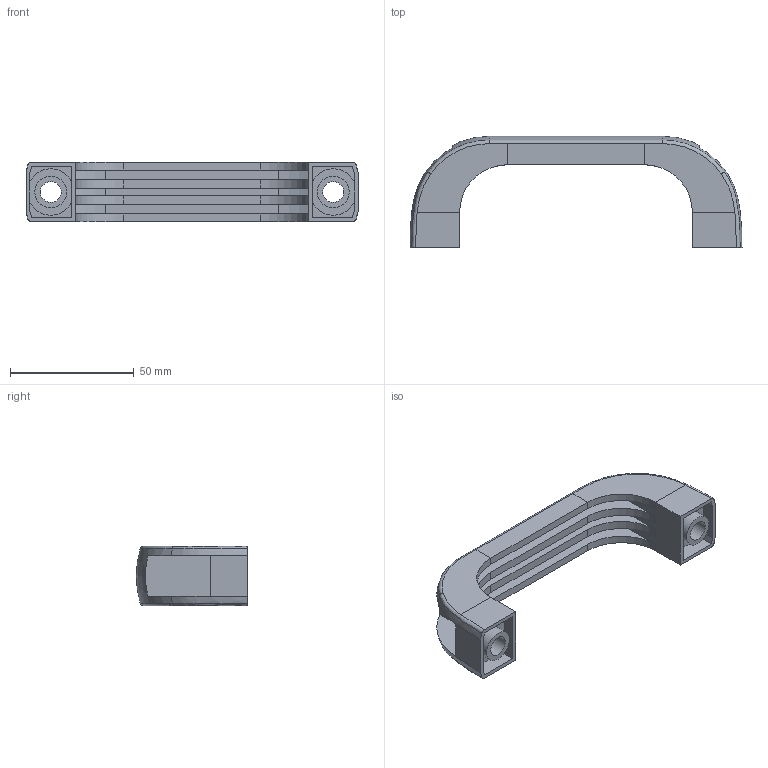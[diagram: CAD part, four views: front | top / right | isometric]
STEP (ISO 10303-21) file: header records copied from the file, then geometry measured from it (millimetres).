
FILE_DESCRIPTION (( 'STEP AP203' ), '1' );
FILE_NAME ('AP-114 塑料拉手.stp', '2022-05-03T08:13:03', ( '' ), ( '' ), 'SwSTEP 2.0', 'SolidWorks 2020', '' );
FILE_SCHEMA (( 'CONFIG_CONTROL_DESIGN' ));
Length unit declared in the file: millimetre
Products named in the file (1): AP-114 塑料拉手
Bounding box: 134 x 45 x 24 mm (x, y, z)
Volume: 32690.8 mm3; surface area: 24693.2 mm2
Topology: 1 solids, 1 shells, 104 faces, 272 edges, 174 vertices
Faces by surface type: plane 59, cylinder 27, bspline 12, torus 6
Full cylindrical faces by diameter (mm): 8.4 x2, 12.85 x2, 14.3 x2
Entity records: 4091 total; most frequent: CARTESIAN_POINT 1583, ORIENTED_EDGE 524, DIRECTION 462, EDGE_CURVE 262, VERTEX_POINT 170, AXIS2_PLACEMENT_3D 159, VECTOR 144, LINE 144
